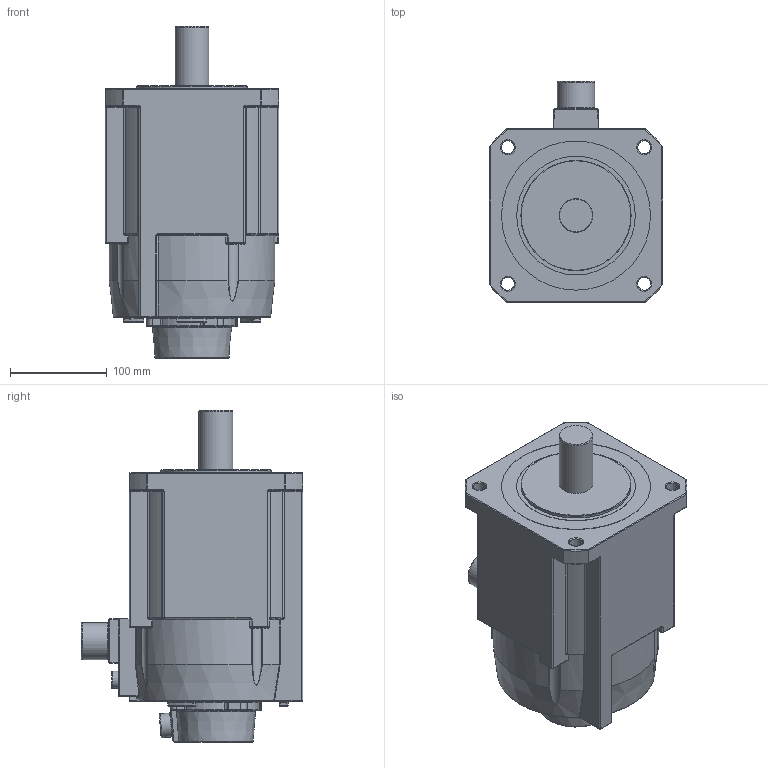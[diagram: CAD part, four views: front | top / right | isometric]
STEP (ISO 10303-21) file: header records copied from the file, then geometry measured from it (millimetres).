
FILE_DESCRIPTION(/* description */ (''),/* implementation_level */ '2;1');
FILE_NAME(/* name */ '01-180BAH35015 - FZ.stp',/* time_stamp */ '2020-08-27T15:12:57+08:00',/* author */ (''),/* organization */ (''),/* preprocessor_version */ 'ST-DEVELOPER v16',/* originating_system */ 'SIEMENS PLM Software NX 10.0',/* authorisation */ '');
FILE_SCHEMA (('CONFIG_CONTROL_DESIGN'));
Length unit declared in the file: millimetre
Products named in the file (1): 01-180BAH35015 - FZ
Bounding box: 180 x 229.5 x 344 mm (x, y, z)
Volume: 6750808.7 mm3; surface area: 249299.4 mm2
Topology: 1 solids, 1 shells, 576 faces, 1360 edges, 726 vertices
Faces by surface type: cylinder 228, torus 149, plane 79, bspline 59, sphere 52, cone 9
Full cylindrical faces by diameter (mm): 6.8 x2, 13.5 x4, 18 x1, 25 x1, 35 x1, 38.6 x1, 114.3 x1, 123 x1, 154.5 x1
Entity records: 18237 total; most frequent: CARTESIAN_POINT 5633, DIRECTION 2829, ORIENTED_EDGE 2502, EDGE_CURVE 1251, AXIS2_PLACEMENT_3D 1219, VERTEX_POINT 722, CIRCLE 682, EDGE_LOOP 627
